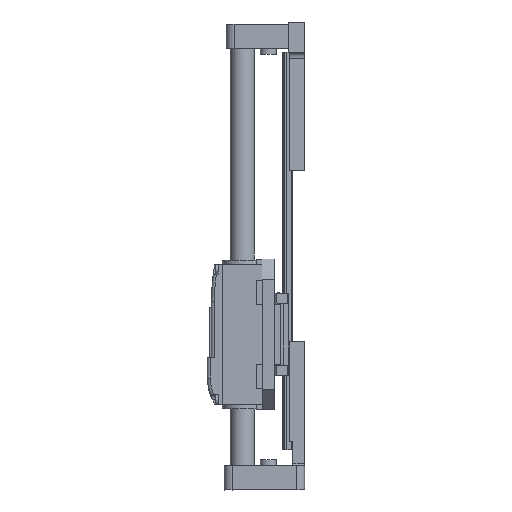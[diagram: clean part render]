
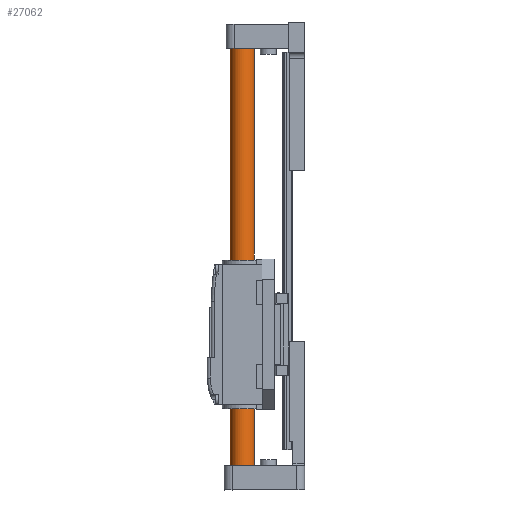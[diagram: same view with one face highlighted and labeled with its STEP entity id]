
A CAD part, left-side view. The second image highlights one B-rep face of the part: STEP entity #27062.
In plain terms, the highlighted cylindrical face has radius 6 mm (diameter 12 mm), a full revolution.
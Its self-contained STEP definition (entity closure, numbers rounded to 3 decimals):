
#26948 = TOROIDAL_SURFACE('',#26949,5.2,0.8);
#26949 = AXIS2_PLACEMENT_3D('',#26950,#26951,#26952);
#26950 = CARTESIAN_POINT('',(0.,0.,217.2));
#26951 = DIRECTION('',(0.,0.,1.));
#26952 = DIRECTION('',(1.,0.,-0.));
#27016 = TOROIDAL_SURFACE('',#27017,5.2,0.8);
#27017 = AXIS2_PLACEMENT_3D('',#27018,#27019,#27020);
#27018 = CARTESIAN_POINT('',(0.,0.,0.8));
#27019 = DIRECTION('',(0.,0.,-1.));
#27020 = DIRECTION('',(-1.,0.,0.));
#27062 = ADVANCED_FACE('',(#27063),#27078,.T.);
#27063 = FACE_BOUND('',#27064,.T.);
#27064 = EDGE_LOOP('',(#27065,#27096,#27118,#27140,#27141));
#27065 = ORIENTED_EDGE('',*,*,#27066,.F.);
#27066 = EDGE_CURVE('',#27067,#27069,#27071,.T.);
#27067 = VERTEX_POINT('',#27068);
#27068 = CARTESIAN_POINT('',(6.,0.,0.8));
#27069 = VERTEX_POINT('',#27070);
#27070 = CARTESIAN_POINT('',(-6.,0.,0.8));
#27071 = SURFACE_CURVE('',#27072,(#27077,#27089),.PCURVE_S1.);
#27072 = CIRCLE('',#27073,6.);
#27073 = AXIS2_PLACEMENT_3D('',#27074,#27075,#27076);
#27074 = CARTESIAN_POINT('',(0.,0.,0.8));
#27075 = DIRECTION('',(0.,0.,-1.));
#27076 = DIRECTION('',(-1.,0.,0.));
#27077 = PCURVE('',#27078,#27083);
#27078 = CYLINDRICAL_SURFACE('',#27079,6.);
#27079 = AXIS2_PLACEMENT_3D('',#27080,#27081,#27082);
#27080 = CARTESIAN_POINT('',(0.,0.,0.));
#27081 = DIRECTION('',(0.,0.,1.));
#27082 = DIRECTION('',(1.,0.,-0.));
#27083 = DEFINITIONAL_REPRESENTATION('',(#27084),#27088);
#27084 = LINE('',#27085,#27086);
#27085 = CARTESIAN_POINT('',(9.425,0.8));
#27086 = VECTOR('',#27087,1.);
#27087 = DIRECTION('',(-1.,0.));
#27088 = ( GEOMETRIC_REPRESENTATION_CONTEXT(2) 
PARAMETRIC_REPRESENTATION_CONTEXT() REPRESENTATION_CONTEXT('2D SPACE',''
  ) );
#27089 = PCURVE('',#27016,#27090);
#27090 = DEFINITIONAL_REPRESENTATION('',(#27091),#27095);
#27091 = LINE('',#27092,#27093);
#27092 = CARTESIAN_POINT('',(0.,6.283));
#27093 = VECTOR('',#27094,1.);
#27094 = DIRECTION('',(1.,0.));
#27095 = ( GEOMETRIC_REPRESENTATION_CONTEXT(2) 
PARAMETRIC_REPRESENTATION_CONTEXT() REPRESENTATION_CONTEXT('2D SPACE',''
  ) );
#27096 = ORIENTED_EDGE('',*,*,#27097,.T.);
#27097 = EDGE_CURVE('',#27067,#27098,#27100,.T.);
#27098 = VERTEX_POINT('',#27099);
#27099 = CARTESIAN_POINT('',(6.,0.,217.2));
#27100 = SEAM_CURVE('',#27101,(#27104,#27111),.PCURVE_S1.);
#27101 = B_SPLINE_CURVE_WITH_KNOTS('',1,(#27102,#27103),.UNSPECIFIED.,
  .F.,.F.,(2,2),(0.8,217.2),.PIECEWISE_BEZIER_KNOTS.);
#27102 = CARTESIAN_POINT('',(6.,0.,0.8));
#27103 = CARTESIAN_POINT('',(6.,0.,217.2));
#27104 = PCURVE('',#27078,#27105);
#27105 = DEFINITIONAL_REPRESENTATION('',(#27106),#27110);
#27106 = LINE('',#27107,#27108);
#27107 = CARTESIAN_POINT('',(6.283,0.));
#27108 = VECTOR('',#27109,1.);
#27109 = DIRECTION('',(0.,1.));
#27110 = ( GEOMETRIC_REPRESENTATION_CONTEXT(2) 
PARAMETRIC_REPRESENTATION_CONTEXT() REPRESENTATION_CONTEXT('2D SPACE',''
  ) );
#27111 = PCURVE('',#27078,#27112);
#27112 = DEFINITIONAL_REPRESENTATION('',(#27113),#27117);
#27113 = LINE('',#27114,#27115);
#27114 = CARTESIAN_POINT('',(0.,0.));
#27115 = VECTOR('',#27116,1.);
#27116 = DIRECTION('',(0.,1.));
#27117 = ( GEOMETRIC_REPRESENTATION_CONTEXT(2) 
PARAMETRIC_REPRESENTATION_CONTEXT() REPRESENTATION_CONTEXT('2D SPACE',''
  ) );
#27118 = ORIENTED_EDGE('',*,*,#27119,.T.);
#27119 = EDGE_CURVE('',#27098,#27098,#27120,.T.);
#27120 = SURFACE_CURVE('',#27121,(#27126,#27133),.PCURVE_S1.);
#27121 = CIRCLE('',#27122,6.);
#27122 = AXIS2_PLACEMENT_3D('',#27123,#27124,#27125);
#27123 = CARTESIAN_POINT('',(0.,0.,217.2));
#27124 = DIRECTION('',(0.,0.,-1.));
#27125 = DIRECTION('',(1.,0.,0.));
#27126 = PCURVE('',#27078,#27127);
#27127 = DEFINITIONAL_REPRESENTATION('',(#27128),#27132);
#27128 = LINE('',#27129,#27130);
#27129 = CARTESIAN_POINT('',(6.283,217.2));
#27130 = VECTOR('',#27131,1.);
#27131 = DIRECTION('',(-1.,0.));
#27132 = ( GEOMETRIC_REPRESENTATION_CONTEXT(2) 
PARAMETRIC_REPRESENTATION_CONTEXT() REPRESENTATION_CONTEXT('2D SPACE',''
  ) );
#27133 = PCURVE('',#26948,#27134);
#27134 = DEFINITIONAL_REPRESENTATION('',(#27135),#27139);
#27135 = LINE('',#27136,#27137);
#27136 = CARTESIAN_POINT('',(6.283,6.283));
#27137 = VECTOR('',#27138,1.);
#27138 = DIRECTION('',(-1.,0.));
#27139 = ( GEOMETRIC_REPRESENTATION_CONTEXT(2) 
PARAMETRIC_REPRESENTATION_CONTEXT() REPRESENTATION_CONTEXT('2D SPACE',''
  ) );
#27140 = ORIENTED_EDGE('',*,*,#27097,.F.);
#27141 = ORIENTED_EDGE('',*,*,#27142,.F.);
#27142 = EDGE_CURVE('',#27069,#27067,#27143,.T.);
#27143 = SURFACE_CURVE('',#27144,(#27149,#27156),.PCURVE_S1.);
#27144 = CIRCLE('',#27145,6.);
#27145 = AXIS2_PLACEMENT_3D('',#27146,#27147,#27148);
#27146 = CARTESIAN_POINT('',(0.,0.,0.8));
#27147 = DIRECTION('',(0.,0.,-1.));
#27148 = DIRECTION('',(-1.,0.,0.));
#27149 = PCURVE('',#27078,#27150);
#27150 = DEFINITIONAL_REPRESENTATION('',(#27151),#27155);
#27151 = LINE('',#27152,#27153);
#27152 = CARTESIAN_POINT('',(3.142,0.8));
#27153 = VECTOR('',#27154,1.);
#27154 = DIRECTION('',(-1.,0.));
#27155 = ( GEOMETRIC_REPRESENTATION_CONTEXT(2) 
PARAMETRIC_REPRESENTATION_CONTEXT() REPRESENTATION_CONTEXT('2D SPACE',''
  ) );
#27156 = PCURVE('',#27016,#27157);
#27157 = DEFINITIONAL_REPRESENTATION('',(#27158),#27162);
#27158 = LINE('',#27159,#27160);
#27159 = CARTESIAN_POINT('',(0.,6.283));
#27160 = VECTOR('',#27161,1.);
#27161 = DIRECTION('',(1.,0.));
#27162 = ( GEOMETRIC_REPRESENTATION_CONTEXT(2) 
PARAMETRIC_REPRESENTATION_CONTEXT() REPRESENTATION_CONTEXT('2D SPACE',''
  ) );
